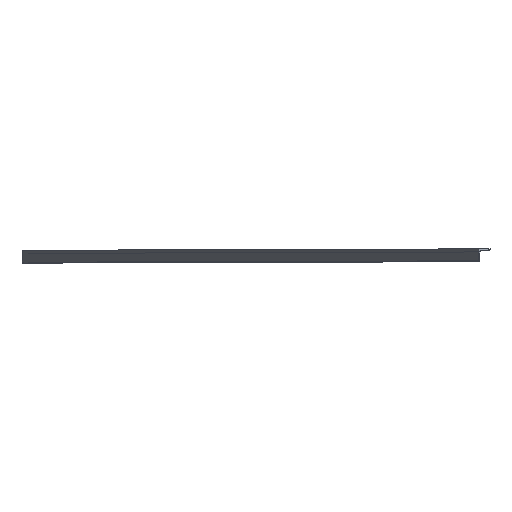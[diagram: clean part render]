
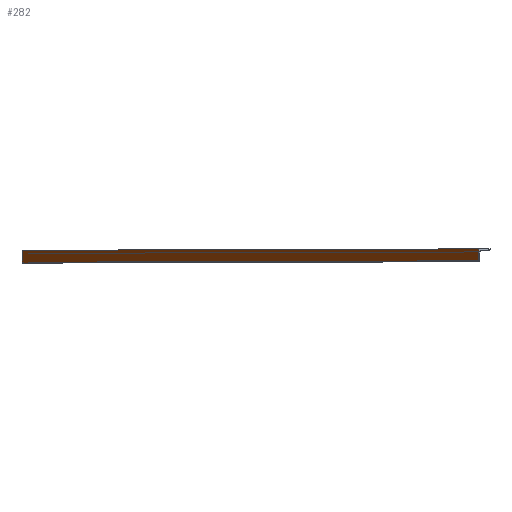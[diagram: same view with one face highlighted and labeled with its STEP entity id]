
A CAD part, top view. The second image highlights one B-rep face of the part: STEP entity #282.
In plain terms, the highlighted planar face has unit normal (-0.873, 0, 0.488).
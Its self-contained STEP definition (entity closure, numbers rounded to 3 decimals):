
#41 = LINE ( 'NONE', #452, #318 ) ;
#56 = DIRECTION ( 'NONE',  ( 0., -1., 0. ) ) ;
#64 = DIRECTION ( 'NONE',  ( -0.488, 0., -0.873 ) ) ;
#102 = CARTESIAN_POINT ( 'NONE',  ( 8856.247, 3795., 3373.942 ) ) ;
#128 = EDGE_CURVE ( 'NONE', #456, #465, #41, .T. ) ;
#149 = ORIENTED_EDGE ( 'NONE', *, *, #550, .F. ) ;
#152 = VECTOR ( 'NONE', #64, 1000. ) ;
#168 = DIRECTION ( 'NONE',  ( 0., -1., 0. ) ) ;
#200 = PLANE ( 'NONE',  #445 ) ;
#258 = LINE ( 'NONE', #401, #449 ) ;
#276 = CARTESIAN_POINT ( 'NONE',  ( 7075.717, 3795., 186.794 ) ) ;
#282 = ADVANCED_FACE ( 'NONE', ( #539 ), #200, .F. ) ;
#300 = LINE ( 'NONE', #471, #496 ) ;
#306 = ORIENTED_EDGE ( 'NONE', *, *, #527, .T. ) ;
#318 = VECTOR ( 'NONE', #168, 1000. ) ;
#341 = ORIENTED_EDGE ( 'NONE', *, *, #711, .T. ) ;
#343 = CARTESIAN_POINT ( 'NONE',  ( 8856.247, 3745., 3373.942 ) ) ;
#352 = CARTESIAN_POINT ( 'NONE',  ( 8856.247, 3745., 3373.942 ) ) ;
#401 = CARTESIAN_POINT ( 'NONE',  ( 7075.717, 3795., 186.794 ) ) ;
#425 = DIRECTION ( 'NONE',  ( -0.488, 0., -0.873 ) ) ;
#431 = LINE ( 'NONE', #352, #152 ) ;
#432 = CARTESIAN_POINT ( 'NONE',  ( 8856.247, 3795., 3373.942 ) ) ;
#441 = DIRECTION ( 'NONE',  ( 0.873, 0., -0.488 ) ) ;
#445 = AXIS2_PLACEMENT_3D ( 'NONE', #432, #441, #600 ) ;
#449 = VECTOR ( 'NONE', #56, 1000. ) ;
#452 = CARTESIAN_POINT ( 'NONE',  ( 8856.247, 3795., 3373.942 ) ) ;
#456 = VERTEX_POINT ( 'NONE', #102 ) ;
#465 = VERTEX_POINT ( 'NONE', #343 ) ;
#466 = ORIENTED_EDGE ( 'NONE', *, *, #128, .F. ) ;
#471 = CARTESIAN_POINT ( 'NONE',  ( 8856.247, 3795., 3373.942 ) ) ;
#482 = VERTEX_POINT ( 'NONE', #276 ) ;
#496 = VECTOR ( 'NONE', #425, 1000. ) ;
#527 = EDGE_CURVE ( 'NONE', #456, #482, #300, .T. ) ;
#528 = CARTESIAN_POINT ( 'NONE',  ( 7075.717, 3745., 186.794 ) ) ;
#539 = FACE_OUTER_BOUND ( 'NONE', #625, .T. ) ;
#550 = EDGE_CURVE ( 'NONE', #465, #557, #431, .T. ) ;
#557 = VERTEX_POINT ( 'NONE', #528 ) ;
#600 = DIRECTION ( 'NONE',  ( -0.488, 0., -0.873 ) ) ;
#625 = EDGE_LOOP ( 'NONE', ( #341, #149, #466, #306 ) ) ;
#711 = EDGE_CURVE ( 'NONE', #482, #557, #258, .T. ) ;
